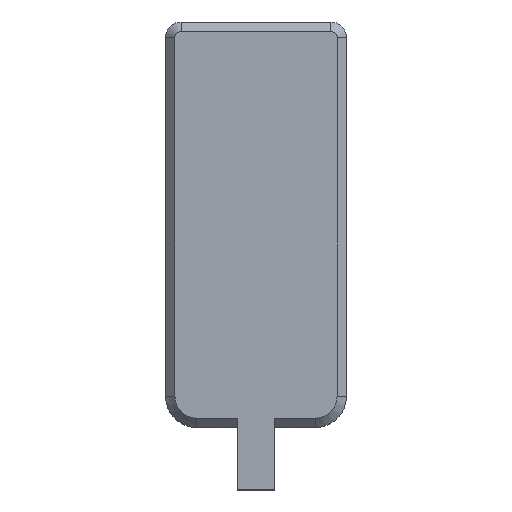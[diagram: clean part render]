
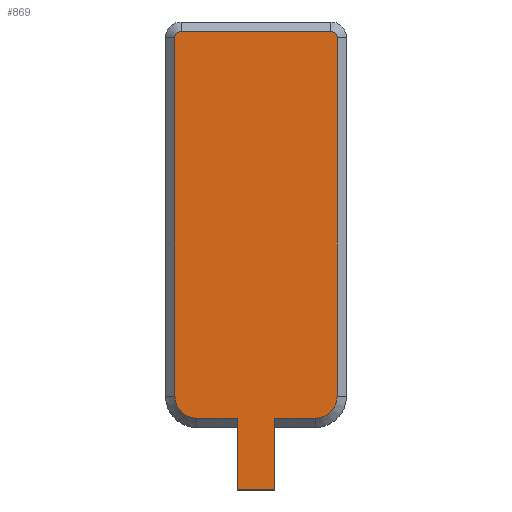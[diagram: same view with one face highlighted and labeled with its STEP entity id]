
A CAD part, top view. The second image highlights one B-rep face of the part: STEP entity #869.
In plain terms, the highlighted planar face has unit normal (0, 0, 1).
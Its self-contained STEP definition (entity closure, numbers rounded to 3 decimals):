
#202=DIRECTION('',(-1.,0.,0.));
#203=VECTOR('',#202,1.3);
#204=CARTESIAN_POINT('',(-0.6,-8.7,6.8));
#205=LINE('',#204,#203);
#206=CARTESIAN_POINT('',(-1.9,-8.,6.8));
#207=DIRECTION('',(0.,0.,-1.));
#208=DIRECTION('',(0.,-1.,0.));
#209=AXIS2_PLACEMENT_3D('',#206,#207,#208);
#211=DIRECTION('',(0.,1.,0.));
#212=VECTOR('',#211,11.5);
#213=CARTESIAN_POINT('',(-2.6,-8.,6.8));
#214=LINE('',#213,#212);
#215=CARTESIAN_POINT('',(-2.4,3.5,6.8));
#216=DIRECTION('',(0.,0.,-1.));
#217=DIRECTION('',(-1.,0.,0.));
#218=AXIS2_PLACEMENT_3D('',#215,#216,#217);
#220=DIRECTION('',(1.,0.,0.));
#221=VECTOR('',#220,4.8);
#222=CARTESIAN_POINT('',(-2.4,3.7,6.8));
#223=LINE('',#222,#221);
#224=CARTESIAN_POINT('',(2.4,3.5,6.8));
#225=DIRECTION('',(0.,0.,-1.));
#226=DIRECTION('',(0.,1.,0.));
#227=AXIS2_PLACEMENT_3D('',#224,#225,#226);
#229=DIRECTION('',(0.,-1.,0.));
#230=VECTOR('',#229,11.5);
#231=CARTESIAN_POINT('',(2.6,3.5,6.8));
#232=LINE('',#231,#230);
#233=CARTESIAN_POINT('',(1.9,-8.,6.8));
#234=DIRECTION('',(0.,0.,-1.));
#235=DIRECTION('',(1.,0.,0.));
#236=AXIS2_PLACEMENT_3D('',#233,#234,#235);
#238=DIRECTION('',(-1.,0.,0.));
#239=VECTOR('',#238,1.3);
#240=CARTESIAN_POINT('',(1.9,-8.7,6.8));
#241=LINE('',#240,#239);
#242=DIRECTION('',(0.,-1.,0.));
#243=VECTOR('',#242,2.3);
#244=CARTESIAN_POINT('',(0.6,-8.7,6.8));
#245=LINE('',#244,#243);
#246=DIRECTION('',(-1.,0.,0.));
#247=VECTOR('',#246,1.2);
#248=CARTESIAN_POINT('',(0.6,-11.,6.8));
#249=LINE('',#248,#247);
#250=DIRECTION('',(0.,1.,0.));
#251=VECTOR('',#250,2.3);
#252=CARTESIAN_POINT('',(-0.6,-11.,6.8));
#253=LINE('',#252,#251);
#449=CARTESIAN_POINT('',(2.6,3.5,6.8));
#450=CARTESIAN_POINT('',(2.6,-8.,6.8));
#451=VERTEX_POINT('',#449);
#452=VERTEX_POINT('',#450);
#453=CARTESIAN_POINT('',(-0.6,-8.7,6.8));
#454=CARTESIAN_POINT('',(-1.9,-8.7,6.8));
#455=VERTEX_POINT('',#453);
#456=VERTEX_POINT('',#454);
#457=CARTESIAN_POINT('',(-2.6,-8.,6.8));
#458=VERTEX_POINT('',#457);
#459=CARTESIAN_POINT('',(-2.6,3.5,6.8));
#460=VERTEX_POINT('',#459);
#461=CARTESIAN_POINT('',(-2.4,3.7,6.8));
#462=VERTEX_POINT('',#461);
#463=CARTESIAN_POINT('',(2.4,3.7,6.8));
#464=VERTEX_POINT('',#463);
#465=CARTESIAN_POINT('',(1.9,-8.7,6.8));
#466=VERTEX_POINT('',#465);
#467=CARTESIAN_POINT('',(0.6,-8.7,6.8));
#468=VERTEX_POINT('',#467);
#469=CARTESIAN_POINT('',(0.6,-11.,6.8));
#470=VERTEX_POINT('',#469);
#471=CARTESIAN_POINT('',(-0.6,-11.,6.8));
#472=VERTEX_POINT('',#471);
#839=CARTESIAN_POINT('',(0.,0.,6.8));
#840=DIRECTION('',(0.,0.,1.));
#841=DIRECTION('',(0.,-1.,0.));
#842=AXIS2_PLACEMENT_3D('',#839,#840,#841);
#843=PLANE('',#842);
#845=ORIENTED_EDGE('',*,*,#844,.T.);
#846=ORIENTED_EDGE('',*,*,#829,.T.);
#848=ORIENTED_EDGE('',*,*,#847,.T.);
#850=ORIENTED_EDGE('',*,*,#849,.T.);
#852=ORIENTED_EDGE('',*,*,#851,.T.);
#854=ORIENTED_EDGE('',*,*,#853,.T.);
#856=ORIENTED_EDGE('',*,*,#855,.T.);
#858=ORIENTED_EDGE('',*,*,#857,.T.);
#860=ORIENTED_EDGE('',*,*,#859,.T.);
#862=ORIENTED_EDGE('',*,*,#861,.T.);
#864=ORIENTED_EDGE('',*,*,#863,.T.);
#866=ORIENTED_EDGE('',*,*,#865,.T.);
#867=EDGE_LOOP('',(#845,#846,#848,#850,#852,#854,#856,#858,#860,#862,#864,
#866));
#868=FACE_OUTER_BOUND('',#867,.F.);
#869=ADVANCED_FACE('',(#868),#843,.T.);
#210=CIRCLE('',#209,0.7);
#219=CIRCLE('',#218,0.2);
#228=CIRCLE('',#227,0.2);
#237=CIRCLE('',#236,0.7);
#829=EDGE_CURVE('',#456,#458,#210,.T.);
#844=EDGE_CURVE('',#455,#456,#205,.T.);
#847=EDGE_CURVE('',#458,#460,#214,.T.);
#849=EDGE_CURVE('',#460,#462,#219,.T.);
#851=EDGE_CURVE('',#462,#464,#223,.T.);
#853=EDGE_CURVE('',#464,#451,#228,.T.);
#855=EDGE_CURVE('',#451,#452,#232,.T.);
#857=EDGE_CURVE('',#452,#466,#237,.T.);
#859=EDGE_CURVE('',#466,#468,#241,.T.);
#861=EDGE_CURVE('',#468,#470,#245,.T.);
#863=EDGE_CURVE('',#470,#472,#249,.T.);
#865=EDGE_CURVE('',#472,#455,#253,.T.);
